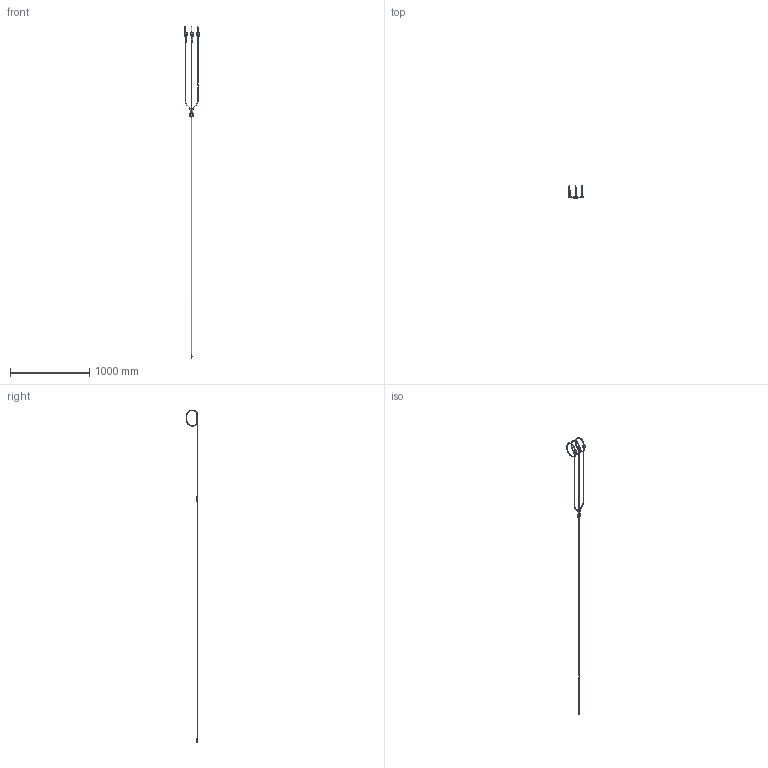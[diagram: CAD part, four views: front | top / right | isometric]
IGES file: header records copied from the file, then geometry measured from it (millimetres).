
Start section: Elysium IGES Interface
Global section: file name: C:\Users\bvm\Desktop\90.M7.99.100.0_20220421\90.M7.99.100.0_20220421.igs; native system: Creo Elements/Direct Modeling 20.1  10-Mar-2018; preprocessor: Creo Element/Direct IGES_3D V2.2; author: Unknown; organization: Unknown; date: 20220421.140549; units: millimetre
Bounding box: 192.44 x 151.56 x 4193.52 mm (x, y, z)
Volume: 307055.5 mm3; surface area: 169210.9 mm2
Topology: 1 solids, 2 shells, 3043 faces, 7625 edges, 4546 vertices
Faces by surface type: bspline 3043
